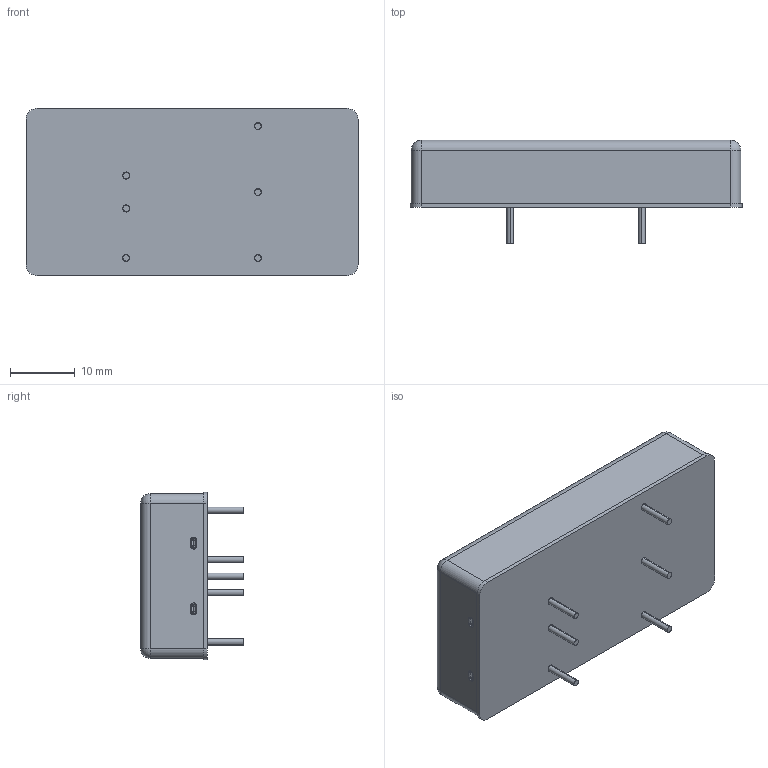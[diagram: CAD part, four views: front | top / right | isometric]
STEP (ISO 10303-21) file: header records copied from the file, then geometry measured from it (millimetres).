
FILE_DESCRIPTION (( 'STEP AP214' ), '1' );
FILE_NAME ('RDDW20組合圖-1051201.STEP', '2020-05-21T02:17:17', ( '' ), ( '' ), 'SwSTEP 2.0', 'SolidWorks 2017', '' );
FILE_SCHEMA (( 'AUTOMOTIVE_DESIGN' ));
Length unit declared in the file: millimetre
Products named in the file (6): RDDW20組合圖-1051201; RDDW20 STANLESS-1051201; RDDW20 RUB-1051201; RDDW20 CASE-1051201; RDDW20 BASE-1051201; RDDW20 PCB-1051201
Assembly tree (5 placements, depth 2):
  RDDW20組合圖-1051201
    RDDW20 CASE-1051201
    RDDW20 PCB-1051201
    RDDW20 STANLESS-1051201
    RDDW20 RUB-1051201
    RDDW20 BASE-1051201
Bounding box: 51.2 x 15.9 x 25.8 mm (x, y, z)
Volume: 3326.4 mm3; surface area: 15593.3 mm2
Topology: 10 solids, 13 shells, 357 faces, 900 edges, 568 vertices
Faces by surface type: cylinder 167, plane 136, torus 44, sphere 8, bspline 2
Entity records: 11627 total; most frequent: CARTESIAN_POINT 2250, DIRECTION 2044, ORIENTED_EDGE 1776, EDGE_CURVE 892, AXIS2_PLACEMENT_3D 802, VERTEX_POINT 568, LINE 440, VECTOR 440
